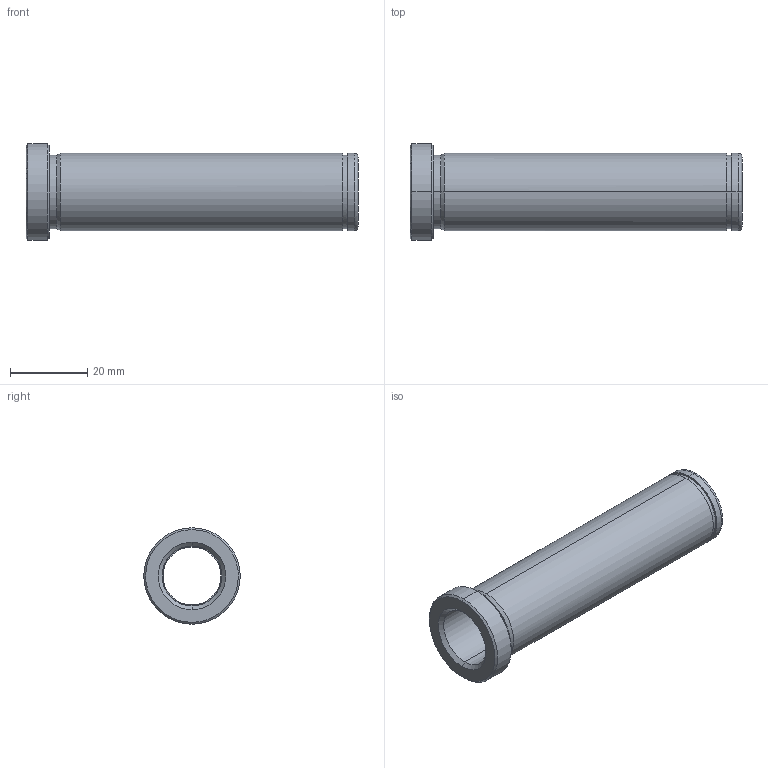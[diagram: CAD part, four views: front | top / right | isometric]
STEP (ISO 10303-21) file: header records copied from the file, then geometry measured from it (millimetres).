
FILE_DESCRIPTION(('CATIA V5 STEP Exchange'),'2;1');
FILE_NAME('C:\Users\Utente\Desktop\IO LAVORO\3D X SITO CF\X SITO\PLASTICA\553\553-15X86.stp','2021-05-21T18:33:52+00:00',('none'),('none'),'CATIA Version 5 Release 20 GA (IN-10)','CATIA V5 STEP AP203','none');
FILE_SCHEMA(('CONFIG_CONTROL_DESIGN'));
Length unit declared in the file: millimetre
Products named in the file (1): 553-15X86
Bounding box: 86 x 25 x 25 mm (x, y, z)
Volume: 12205.2 mm3; surface area: 10199.3 mm2
Topology: 1 solids, 1 shells, 31 faces, 98 edges, 72 vertices
Faces by surface type: cylinder 14, cone 8, plane 5, torus 4
Entity records: 1288 total; most frequent: CARTESIAN_POINT 384, ORIENTED_EDGE 196, DIRECTION 144, EDGE_CURVE 98, AXIS2_PLACEMENT_3D 92, VERTEX_POINT 72, CIRCLE 60, EDGE_LOOP 36
